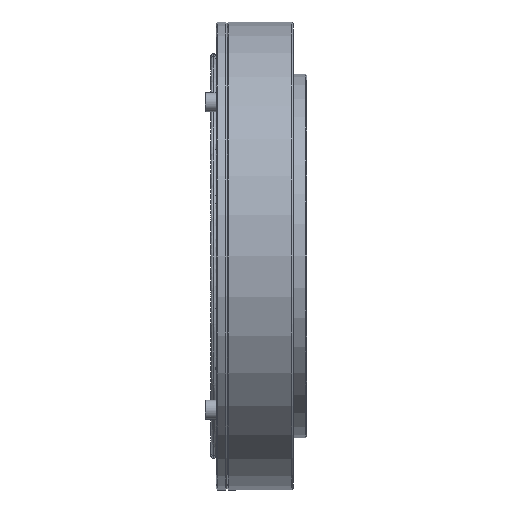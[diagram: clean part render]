
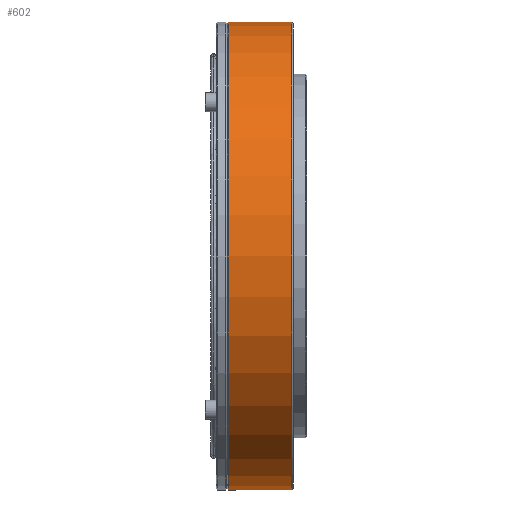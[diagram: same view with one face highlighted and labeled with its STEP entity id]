
A CAD part, front view. The second image highlights one B-rep face of the part: STEP entity #602.
In plain terms, the highlighted cylindrical face has radius 85 mm (diameter 170 mm), a partial arc.
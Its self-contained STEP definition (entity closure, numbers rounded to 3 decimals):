
#31 = VECTOR ( 'NONE', #12017, 1000. ) ;
#602 = ADVANCED_FACE ( 'NONE', ( #18727 ), #2007, .T. ) ;
#1846 = VERTEX_POINT ( 'NONE', #9768 ) ;
#2007 = CYLINDRICAL_SURFACE ( 'NONE', #20363, 85. ) ;
#2046 = EDGE_LOOP ( 'NONE', ( #15077, #13519, #3426, #6958 ) ) ;
#2637 = EDGE_CURVE ( 'NONE', #11471, #16685, #14193, .T. ) ;
#3147 = CARTESIAN_POINT ( 'NONE',  ( 23.5, 0., 0. ) ) ;
#3217 = DIRECTION ( 'NONE',  ( 0., 0., -1. ) ) ;
#3426 = ORIENTED_EDGE ( 'NONE', *, *, #12078, .T. ) ;
#3439 = DIRECTION ( 'NONE',  ( 1., 0., 0. ) ) ;
#3959 = CARTESIAN_POINT ( 'NONE',  ( 0.5, 0., 0. ) ) ;
#5603 = CARTESIAN_POINT ( 'NONE',  ( 57.5, 0., -85. ) ) ;
#6414 = DIRECTION ( 'NONE',  ( 0., 0., -1. ) ) ;
#6798 = CARTESIAN_POINT ( 'NONE',  ( 57.5, 0., 0. ) ) ;
#6958 = ORIENTED_EDGE ( 'NONE', *, *, #2637, .T. ) ;
#8189 = VECTOR ( 'NONE', #3439, 1000. ) ;
#8612 = DIRECTION ( 'NONE',  ( 0., 0., -1. ) ) ;
#8661 = CARTESIAN_POINT ( 'NONE',  ( 0.5, 0., 85. ) ) ;
#9455 = CIRCLE ( 'NONE', #16210, 85. ) ;
#9768 = CARTESIAN_POINT ( 'NONE',  ( 0.5, 0., -85. ) ) ;
#10309 = DIRECTION ( 'NONE',  ( 1., 0., 0. ) ) ;
#11471 = VERTEX_POINT ( 'NONE', #15234 ) ;
#11915 = AXIS2_PLACEMENT_3D ( 'NONE', #3147, #12952, #3217 ) ;
#12017 = DIRECTION ( 'NONE',  ( 1., 0., 0. ) ) ;
#12078 = EDGE_CURVE ( 'NONE', #1846, #11471, #15777, .T. ) ;
#12777 = CARTESIAN_POINT ( 'NONE',  ( 23.5, 0., 85. ) ) ;
#12952 = DIRECTION ( 'NONE',  ( -1., 0., 0. ) ) ;
#13178 = CARTESIAN_POINT ( 'NONE',  ( 57.5, 0., 85. ) ) ;
#13421 = EDGE_CURVE ( 'NONE', #16240, #16685, #19535, .T. ) ;
#13519 = ORIENTED_EDGE ( 'NONE', *, *, #15670, .T. ) ;
#14193 = CIRCLE ( 'NONE', #11915, 85. ) ;
#15077 = ORIENTED_EDGE ( 'NONE', *, *, #13421, .F. ) ;
#15234 = CARTESIAN_POINT ( 'NONE',  ( 23.5, 0., -85. ) ) ;
#15670 = EDGE_CURVE ( 'NONE', #16240, #1846, #9455, .T. ) ;
#15777 = LINE ( 'NONE', #5603, #31 ) ;
#16101 = DIRECTION ( 'NONE',  ( 1., 0., 0. ) ) ;
#16210 = AXIS2_PLACEMENT_3D ( 'NONE', #3959, #10309, #8612 ) ;
#16240 = VERTEX_POINT ( 'NONE', #8661 ) ;
#16685 = VERTEX_POINT ( 'NONE', #12777 ) ;
#18727 = FACE_OUTER_BOUND ( 'NONE', #2046, .T. ) ;
#19535 = LINE ( 'NONE', #13178, #8189 ) ;
#20363 = AXIS2_PLACEMENT_3D ( 'NONE', #6798, #16101, #6414 ) ;
